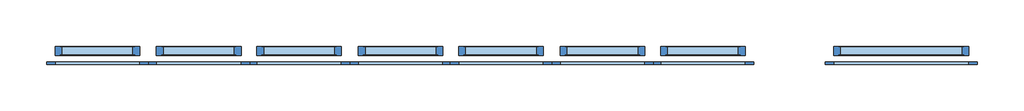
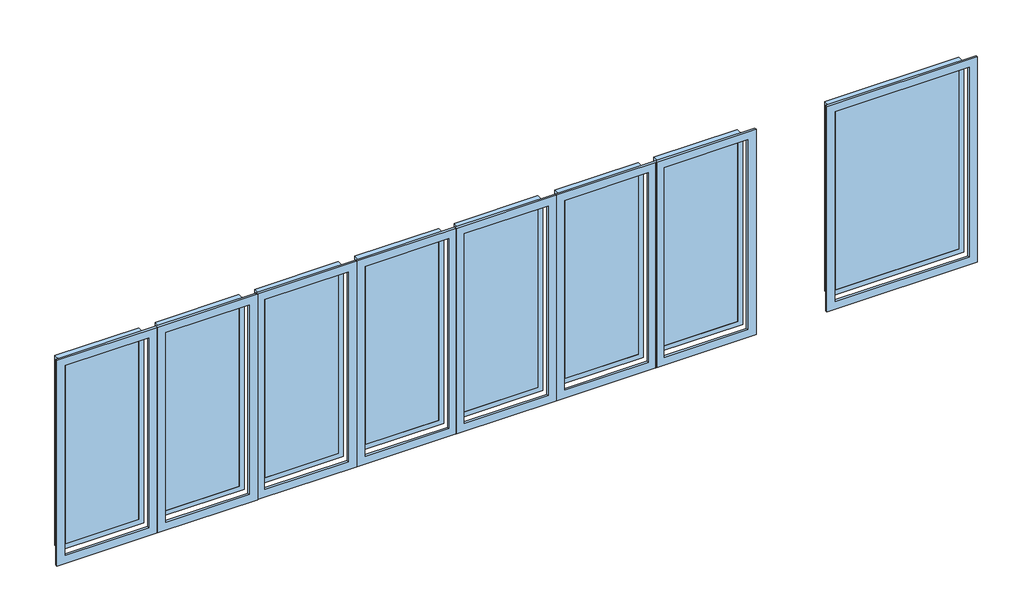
# One storey: 8 windows.
"""IFC4 building model written with IfcOpenShell, lengths in millimetres."""

import ifcopenshell
import ifcopenshell.guid

model = None  # the IFC model being written
_history = None  # IfcOwnerHistory: only IFC2X3 demands one
_inside = {}  # id of a spatial element -> (the spatial element, [elements in it])
_under = {}  # id of a project, library or spatial element -> (it, [spatial elements below it])
_declared = {}  # id of a project -> (the project, [libraries it declares])
_typed = {}  # id of a type object -> (the type object, [elements of that type])
_made_of = {}  # id of a material, layer set ... -> (it, [elements and type objects made of it])


def new_model(schema):
    """Start an empty IFC model of exactly this schema.

    Asked for "IFC4X3", IfcOpenShell would pick the latest addendum, in which some entities
    have other attributes; the version numbers below select the first issue.
    IFC2X3 requires an IfcOwnerHistory on every rooted entity: one is made here for all.
    """
    global model, _history
    if schema == "IFC4X3":
        model = ifcopenshell.file(schema_version=(4, 3, 0, 0))
    else:
        model = ifcopenshell.file(schema=schema)
    _inside.clear()
    _under.clear()
    _declared.clear()
    _typed.clear()
    _made_of.clear()
    _history = None
    if model.schema == "IFC2X3":
        org = make("IfcOrganization", Name="unknown")
        user = make(
            "IfcPersonAndOrganization",
            ThePerson=make("IfcPerson", FamilyName="unknown"),
            TheOrganization=org,
        )
        app = make(
            "IfcApplication",
            ApplicationDeveloper=org,
            Version="unknown",
            ApplicationFullName="unknown",
            ApplicationIdentifier="unknown",
        )
        _history = make(
            "IfcOwnerHistory",
            OwningUser=user,
            OwningApplication=app,
            ChangeAction="ADDED",
            CreationDate=0,
        )
    return model


def make(cls, **values):
    """One entity of the class cls with the attributes given. An attribute that is None is left unset."""
    return model.create_entity(
        cls, **{name: value for name, value in values.items() if value is not None}
    )


def rooted(cls, **values):
    """An entity with a GlobalId (a new one), such as an element, a storey or a relation."""
    return make(cls, GlobalId=ifcopenshell.guid.new(), OwnerHistory=_history, **values)


def si_unit(unit_type, name, prefix=None):
    """IfcSIUnit, for example si_unit("LENGTHUNIT", "METRE", prefix="MILLI")."""
    return make("IfcSIUnit", UnitType=unit_type, Prefix=prefix, Name=name)


def assignment(units):
    """IfcUnitAssignment: the units of a project."""
    return None if units is None else make("IfcUnitAssignment", Units=units)


def point(xyz):
    """IfcCartesianPoint."""
    return None if xyz is None else make("IfcCartesianPoint", Coordinates=xyz)


def direction(xyz):
    """IfcDirection."""
    return None if xyz is None else make("IfcDirection", DirectionRatios=xyz)


def frame(location, z_axis=None, x_axis=None):
    """IfcAxis2Placement3D, a coordinate frame: its origin and axes. An axis left out is left unset."""
    return make(
        "IfcAxis2Placement3D",
        Location=point(location),
        Axis=direction(z_axis),
        RefDirection=direction(x_axis),
    )


def origin():
    """The frame at (0, 0, 0) with its axes left unset."""
    return frame((0.0, 0.0, 0.0))


def place(relative_to, where):
    """IfcLocalPlacement: puts the frame where relative to a parent placement (None: the world)."""
    return make(
        "IfcLocalPlacement", PlacementRelTo=relative_to, RelativePlacement=where
    )


def context(
    kind, dimensions, precision=None, world=None, true_north=None, identifier=None
):
    """IfcGeometricRepresentationContext, for example the 3D "Model" context."""
    return make(
        "IfcGeometricRepresentationContext",
        ContextIdentifier=identifier,
        ContextType=kind,
        CoordinateSpaceDimension=dimensions,
        Precision=precision,
        WorldCoordinateSystem=world,
        TrueNorth=true_north,
    )


def project(units=None, contexts=None):
    """IfcProject with its units and contexts."""
    return rooted(
        "IfcProject",
        Name="project",
        RepresentationContexts=contexts,
        UnitsInContext=assignment(units),
    )


def spatial(cls, under=None, at=None, **own):
    """A site, building, storey or space (cls), placed at a placement, below another one or the project."""
    s = rooted(cls, ObjectPlacement=at, **own)
    if under is not None:
        _under.setdefault(under.id(), (under, []))[1].append(s)
    return s


def polyline(points):
    """IfcPolyline through the points."""
    return make("IfcPolyline", Points=[point(p) for p in points])


def outline(outer, holes=None, kind="AREA"):
    """IfcArbitraryClosedProfileDef: a profile drawn as a closed curve; with holes, ...WithVoids."""
    if holes is None:
        return make("IfcArbitraryClosedProfileDef", ProfileType=kind, OuterCurve=outer)
    return make(
        "IfcArbitraryProfileDefWithVoids",
        ProfileType=kind,
        OuterCurve=outer,
        InnerCurves=holes,
    )


def extrude(swept, where, along, depth):
    """IfcExtrudedAreaSolid: the profile swept, set in the frame where, extruded along a direction by depth."""
    return make(
        "IfcExtrudedAreaSolid",
        SweptArea=swept,
        Position=where,
        ExtrudedDirection=direction(along),
        Depth=depth,
    )


def faces_of(points, faces, orient=None, outer=None):
    """IfcFace entities. A face is a list of loops; a loop is a list of indices into points, from 0.

    orient and outer hold one flag for each loop. By default every Orientation is true, the
    first loop of a face is its IfcFaceOuterBound and the others are IfcFaceBound.
    """
    made = []
    for i, loops in enumerate(faces):
        bounds = []
        for j, loop in enumerate(loops):
            is_outer = j == 0 if outer is None else outer[i][j]
            bounds.append(
                make(
                    "IfcFaceOuterBound" if is_outer else "IfcFaceBound",
                    Bound=make("IfcPolyLoop", Polygon=[points[k] for k in loop]),
                    Orientation=True if orient is None else orient[i][j],
                )
            )
        made.append(make("IfcFace", Bounds=bounds))
    return made


def faceted_brep(points, faces, orient=None, outer=None, voids=None):
    """IfcFacetedBrep: a solid bounded by flat faces; with voids (closed shells), ...WithVoids."""
    shared = [point(p) for p in points]
    hull = make("IfcClosedShell", CfsFaces=faces_of(shared, faces, orient, outer))
    if voids is None:
        return make("IfcFacetedBrep", Outer=hull)
    return make(
        "IfcFacetedBrepWithVoids",
        Outer=hull,
        Voids=[
            make(cls, CfsFaces=faces_of(shared, fs, o, b)) for cls, fs, o, b in voids
        ],
    )


def shape(context_of_items, identifier, shape_type, items):
    """IfcShapeRepresentation: the items that make up one representation, for example the "Body"."""
    return make(
        "IfcShapeRepresentation",
        ContextOfItems=context_of_items,
        RepresentationIdentifier=identifier,
        RepresentationType=shape_type,
        Items=items,
    )


def source(mapping_origin, context_of_items, identifier, shape_type, items):
    """IfcRepresentationMap: a shape defined once, which mapped items show again and again."""
    return make(
        "IfcRepresentationMap",
        MappingOrigin=mapping_origin,
        MappedRepresentation=shape(context_of_items, identifier, shape_type, items),
    )


def transform(
    local_origin,
    x_axis=None,
    y_axis=None,
    z_axis=None,
    scale=None,
    scale2=None,
    scale3=None,
    uniform=True,
):
    """IfcCartesianTransformationOperator3D, or its non-uniform kind. x_axis, y_axis, z_axis: its Axis1, 2, 3."""
    if uniform:
        return make(
            "IfcCartesianTransformationOperator3D",
            Axis1=direction(x_axis),
            Axis2=direction(y_axis),
            LocalOrigin=point(local_origin),
            Scale=scale,
            Axis3=direction(z_axis),
        )
    return make(
        "IfcCartesianTransformationOperator3DnonUniform",
        Axis1=direction(x_axis),
        Axis2=direction(y_axis),
        LocalOrigin=point(local_origin),
        Scale=scale,
        Axis3=direction(z_axis),
        Scale2=scale2,
        Scale3=scale3,
    )


def mapped(mapping_source, mapping_target):
    """IfcMappedItem: shows the shape of a source again, moved by a transform."""
    return make(
        "IfcMappedItem", MappingSource=mapping_source, MappingTarget=mapping_target
    )


def made_of(thing, what):
    """Note that an element or type object is made of a material, layer set ...; save() writes the relation."""
    if what is not None:
        _made_of.setdefault(what.id(), (what, []))[1].append(thing)
    return thing


def element(
    cls,
    number,
    at=None,
    inside=None,
    cuts=None,
    type_object=None,
    material=None,
    context=None,
    identifier="Body",
    shape_type=None,
    held_by="IfcProductDefinitionShape",
    body=None,
    shapes=None,
    **own,
):
    """One element of the class cls, such as IfcWall. Its Tag is "e" and its number.

    at: its placement. inside: the storey or other place that contains it. cuts: it is an
    opening in that element (IfcRelVoidsElement). A single representation is given by context,
    identifier, shape_type and body (its items); several are given by shapes. held_by: the class
    of the entity that holds the representations. save() writes the other relations.
    """
    e = rooted(cls, Tag="e%d" % number, ObjectPlacement=at, **own)
    if body is not None:
        shapes = [shape(context, identifier, shape_type, body)]
    if shapes is not None:
        e.Representation = make(held_by, Representations=shapes)
    if inside is not None:
        _inside.setdefault(inside.id(), (inside, []))[1].append(e)
    if cuts is not None:
        rooted(
            "IfcRelVoidsElement", RelatingBuildingElement=cuts, RelatedOpeningElement=e
        )
    if type_object is not None:
        _typed.setdefault(type_object.id(), (type_object, []))[1].append(e)
    return made_of(e, material)


def aggregate(whole, parts):
    """IfcRelAggregates: a whole, such as a stair, and the parts it consists of."""
    return rooted("IfcRelAggregates", RelatingObject=whole, RelatedObjects=parts)


def save(model, path):
    """Write the relations noted so far, then the file.

    IfcRelAggregates (storeys below a building ...), IfcRelContainedInSpatialStructure (elements
    in a storey), IfcRelDefinesByType, IfcRelAssociatesMaterial and IfcRelDeclares: one each for
    every whole, place, type object, material and project.
    """
    for whole, parts in _under.values():
        aggregate(whole, parts)
    for where, things in _inside.values():
        rooted(
            "IfcRelContainedInSpatialStructure",
            RelatedElements=things,
            RelatingStructure=where,
        )
    for kind, things in _typed.values():
        rooted("IfcRelDefinesByType", RelatedObjects=things, RelatingType=kind)
    for what, things in _made_of.values():
        rooted("IfcRelAssociatesMaterial", RelatedObjects=things, RelatingMaterial=what)
    for by, libraries in _declared.values():
        rooted("IfcRelDeclares", RelatingContext=by, RelatedDefinitions=libraries)
    model.write(path)


def window_fixed_trim_with_double_glass_750_x_1500_mm_20c75347(model_context):
    return source(origin(), model_context, "Body", "SolidModel", [
        extrude(outline(polyline([(330.0, 40.0), (330.0, 36.0), (-330.0, 36.0), (-330.0, 40.0), (330.0, 40.0)])), frame((0.0, 0.0, 845.0), z_axis=(0.0, 0.0, 1.0), x_axis=(1.0, 0.0, 0.0)), (0.0, 0.0, 1.0), 1710.0),
        extrude(outline(polyline([(330.0, -36.0), (330.0, -40.0), (-330.0, -40.0), (-330.0, -36.0), (330.0, -36.0)])), frame((0.0, 0.0, 845.0), z_axis=(0.0, 0.0, 1.0), x_axis=(1.0, 0.0, 0.0)), (0.0, 0.0, 1.0), 1710.0),
        faceted_brep([(-330.0, 36.0, 2555.0), (-330.0, 40.0, 2555.0), (330.0, 40.0, 2555.0), (330.0, 36.0, 2555.0), (-315.0, -36.0, 2540.0), (-315.0, 36.0, 2540.0), (315.0, 36.0, 2540.0), (315.0, -36.0, 2540.0), (-330.0, -40.0, 2555.0), (-330.0, -36.0, 2555.0), (330.0, -36.0, 2555.0), (330.0, -40.0, 2555.0), (-375.0, 40.0, 2600.0), (-375.0, -40.0, 2600.0), (375.0, -40.0, 2600.0), (375.0, 40.0, 2600.0), (330.0, 40.0, 845.0), (330.0, 36.0, 845.0), (315.0, 36.0, 860.0), (315.0, -36.0, 860.0), (330.0, -36.0, 845.0), (330.0, -40.0, 845.0), (375.0, -40.0, 800.0), (375.0, 40.0, 800.0), (-330.0, 40.0, 845.0), (-330.0, 36.0, 845.0), (-315.0, 36.0, 860.0), (-315.0, -36.0, 860.0), (-330.0, -36.0, 845.0), (-330.0, -40.0, 845.0), (-375.0, -40.0, 800.0), (-375.0, 40.0, 800.0)], [[[0, 1, 2, 3]], [[4, 5, 6, 7]], [[8, 9, 10, 11]], [[12, 13, 14, 15]], [[3, 2, 16, 17]], [[7, 6, 18, 19]], [[11, 10, 20, 21]], [[15, 14, 22, 23]], [[17, 16, 24, 25]], [[19, 18, 26, 27]], [[21, 20, 28, 29]], [[23, 22, 30, 31]], [[15, 23, 31, 12], [1, 24, 16, 2]], [[25, 24, 1, 0]], [[3, 17, 25, 0], [5, 26, 18, 6]], [[27, 26, 5, 4]], [[9, 28, 20, 10], [7, 19, 27, 4]], [[29, 28, 9, 8]], [[13, 30, 22, 14], [11, 21, 29, 8]], [[31, 30, 13, 12]]]),
        extrude(outline(polyline([(2675.0, -450.0), (725.0, -450.0), (725.0, 450.0), (2675.0, 450.0), (2675.0, -450.0)]), holes=[polyline([(2600.0, -375.0), (2600.0, 375.0), (800.0, 375.0), (800.0, -375.0), (2600.0, -375.0)])]), frame((0.0, 100.0, 0.0), z_axis=(0.0, 1.0, 0.0), x_axis=(0.0, 0.0, 1.0)), (0.0, 0.0, 1.0), 20.0),
    ])


def window_fixed_trim_with_double_glass_750_x_1500_mm_2_a35bcce7(model_context):
    return source(origin(), model_context, "Body", "SolidModel", [
        extrude(outline(polyline([(555.0, 40.0), (555.0, 36.0), (-555.0, 36.0), (-555.0, 40.0), (555.0, 40.0)])), frame((0.0, 0.0, 845.0), z_axis=(0.0, 0.0, 1.0), x_axis=(1.0, 0.0, 0.0)), (0.0, 0.0, 1.0), 1710.0),
        extrude(outline(polyline([(555.0, -36.0), (555.0, -40.0), (-555.0, -40.0), (-555.0, -36.0), (555.0, -36.0)])), frame((0.0, 0.0, 845.0), z_axis=(0.0, 0.0, 1.0), x_axis=(1.0, 0.0, 0.0)), (0.0, 0.0, 1.0), 1710.0),
        faceted_brep([(-555.0, 36.0, 2555.0), (-555.0, 40.0, 2555.0), (555.0, 40.0, 2555.0), (555.0, 36.0, 2555.0), (-540.0, -36.0, 2540.0), (-540.0, 36.0, 2540.0), (540.0, 36.0, 2540.0), (540.0, -36.0, 2540.0), (-555.0, -40.0, 2555.0), (-555.0, -36.0, 2555.0), (555.0, -36.0, 2555.0), (555.0, -40.0, 2555.0), (-600.0, 40.0, 2600.0), (-600.0, -40.0, 2600.0), (600.0, -40.0, 2600.0), (600.0, 40.0, 2600.0), (555.0, 40.0, 845.0), (555.0, 36.0, 845.0), (540.0, 36.0, 860.0), (540.0, -36.0, 860.0), (555.0, -36.0, 845.0), (555.0, -40.0, 845.0), (600.0, -40.0, 800.0), (600.0, 40.0, 800.0), (-555.0, 40.0, 845.0), (-555.0, 36.0, 845.0), (-540.0, 36.0, 860.0), (-540.0, -36.0, 860.0), (-555.0, -36.0, 845.0), (-555.0, -40.0, 845.0), (-600.0, -40.0, 800.0), (-600.0, 40.0, 800.0)], [[[0, 1, 2, 3]], [[4, 5, 6, 7]], [[8, 9, 10, 11]], [[12, 13, 14, 15]], [[3, 2, 16, 17]], [[7, 6, 18, 19]], [[11, 10, 20, 21]], [[15, 14, 22, 23]], [[17, 16, 24, 25]], [[19, 18, 26, 27]], [[21, 20, 28, 29]], [[23, 22, 30, 31]], [[15, 23, 31, 12], [1, 24, 16, 2]], [[25, 24, 1, 0]], [[3, 17, 25, 0], [5, 26, 18, 6]], [[27, 26, 5, 4]], [[9, 28, 20, 10], [7, 19, 27, 4]], [[29, 28, 9, 8]], [[13, 30, 22, 14], [11, 21, 29, 8]], [[31, 30, 13, 12]]]),
        extrude(outline(polyline([(2675.0, -675.0), (725.0, -675.0), (725.0, 675.0), (2675.0, 675.0), (2675.0, -675.0)]), holes=[polyline([(2600.0, -600.0), (2600.0, 600.0), (800.0, 600.0), (800.0, -600.0), (2600.0, -600.0)])]), frame((0.0, 100.0, 0.0), z_axis=(0.0, 1.0, 0.0), x_axis=(0.0, 0.0, 1.0)), (0.0, 0.0, 1.0), 20.0),
    ])


model = new_model("IFC4")

# Units and contexts
model_context = context("Model", 3, world=origin())
ifc_project = project(units=[si_unit("LENGTHUNIT", "METRE", prefix="MILLI")], contexts=[model_context])

# Site, building, storey
site = spatial("IfcSite", under=ifc_project)
building = spatial("IfcBuilding", under=site)
storey = spatial("IfcBuildingStorey", under=building, Name="طبقه 4", Elevation=12800.0)

# Windows
placement = place(None, origin())
window_fixed_trim_with_double_glass_750_x_1500_mm_shape = window_fixed_trim_with_double_glass_750_x_1500_mm_20c75347(model_context)
element("IfcWindow", 1, ObjectType="Window fixed-trim with double glass : 750 x 1500 mm", at=placement, inside=storey, context=model_context, shape_type="MappedRepresentation", body=[
    mapped(window_fixed_trim_with_double_glass_750_x_1500_mm_shape, transform((-286.8945901, 931.9973325, 12592.6210566), x_axis=(-1.0, 0.0, 0.0), y_axis=(0.0, -1.0, 0.0), z_axis=(0.0, 0.0, 1.0))),
])
element("IfcWindow", 2, ObjectType="Window fixed-trim with double glass : 750 x 1500 mm", at=placement, inside=storey, context=model_context, shape_type="MappedRepresentation", body=[
    mapped(window_fixed_trim_with_double_glass_750_x_1500_mm_shape, transform((-1176.8945901, 931.9973325, 12592.6210566), x_axis=(-1.0, 0.0, 0.0), y_axis=(0.0, -1.0, 0.0), z_axis=(0.0, 0.0, 1.0))),
])
element("IfcWindow", 3, ObjectType="Window fixed-trim with double glass : 750 x 1500 mm", at=placement, inside=storey, context=model_context, shape_type="MappedRepresentation", body=[
    mapped(window_fixed_trim_with_double_glass_750_x_1500_mm_shape, transform((-2076.8945901, 931.9973325, 12592.6210566), x_axis=(-1.0, 0.0, 0.0), y_axis=(0.0, -1.0, 0.0), z_axis=(0.0, 0.0, 1.0))),
])
element("IfcWindow", 4, ObjectType="Window fixed-trim with double glass : 750 x 1500 mm", at=placement, inside=storey, context=model_context, shape_type="MappedRepresentation", body=[
    mapped(window_fixed_trim_with_double_glass_750_x_1500_mm_shape, transform((-2966.8945901, 931.9973325, 12592.6210566), x_axis=(-1.0, 0.0, 0.0), y_axis=(0.0, -1.0, 0.0), z_axis=(0.0, 0.0, 1.0))),
])
element("IfcWindow", 5, ObjectType="Window fixed-trim with double glass : 750 x 1500 mm", at=placement, inside=storey, context=model_context, shape_type="MappedRepresentation", body=[
    mapped(window_fixed_trim_with_double_glass_750_x_1500_mm_shape, transform((-3866.8945901, 931.9973325, 12592.6210566), x_axis=(-1.0, 0.0, 0.0), y_axis=(0.0, -1.0, 0.0), z_axis=(0.0, 0.0, 1.0))),
])
element("IfcWindow", 6, ObjectType="Window fixed-trim with double glass : 750 x 1500 mm", at=placement, inside=storey, context=model_context, shape_type="MappedRepresentation", body=[
    mapped(window_fixed_trim_with_double_glass_750_x_1500_mm_shape, transform((-4756.8945901, 931.9973325, 12592.6210566), x_axis=(-1.0, 0.0, 0.0), y_axis=(0.0, -1.0, 0.0), z_axis=(0.0, 0.0, 1.0))),
])
element("IfcWindow", 7, ObjectType="Window fixed-trim with double glass : 750 x 1500 mm", at=placement, inside=storey, context=model_context, shape_type="MappedRepresentation", body=[
    mapped(window_fixed_trim_with_double_glass_750_x_1500_mm_shape, transform((-5656.8945901, 931.9973325, 12592.6210566), x_axis=(-1.0, 0.0, 0.0), y_axis=(0.0, -1.0, 0.0), z_axis=(0.0, 0.0, 1.0))),
])
window_fixed_trim_with_double_glass_750_x_1500_mm_2_shape = window_fixed_trim_with_double_glass_750_x_1500_mm_2_a35bcce7(model_context)
element("IfcWindow", 8, ObjectType="Window fixed-trim with double glass : 750 x 1500 mm 2", at=placement, inside=storey, context=model_context, shape_type="MappedRepresentation", body=[
    mapped(window_fixed_trim_with_double_glass_750_x_1500_mm_2_shape, transform((1473.1054099, 931.9973325, 12585.0), x_axis=(-1.0, 0.0, 0.0), y_axis=(0.0, -1.0, 0.0), z_axis=(0.0, 0.0, 1.0))),
])

save(model, "model.ifc")
